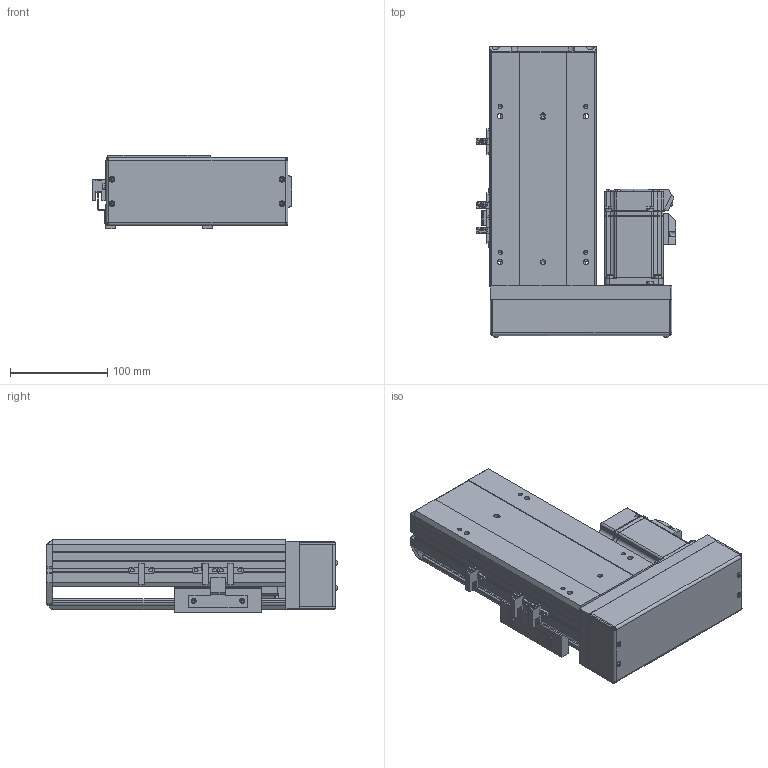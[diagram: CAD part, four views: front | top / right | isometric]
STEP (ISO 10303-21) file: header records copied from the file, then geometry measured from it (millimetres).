
FILE_DESCRIPTION (( 'STEP AP203' ), '1' );
FILE_NAME ('1.STEP', '2020-11-06T08:33:41', ( '' ), ( '' ), 'SwSTEP 2.0', 'SolidWorks 2016', '' );
FILE_SCHEMA (( 'CONFIG_CONTROL_DESIGN' ));
Length unit declared in the file: millimetre
Products named in the file (7): BTH11-BR-HZ; 1; BTH11-BR-02_100; BTH11-BR-04; BTH11-BR-01; BTH11-BL-BM-BR-菁釱; BTH11-BR-P20
Assembly tree (8 placements, depth 2):
  1
    BTH11-BL-BM-BR-菁釱
    BTH11-BR-01
    BTH11-BR-02_100
    BTH11-BR-04  x3
    BTH11-BR-HZ
    BTH11-BR-P20
Bounding box: 205.2 x 298.65 x 76 mm (x, y, z)
Volume: 1515518 mm3; surface area: 360592.2 mm2
Topology: 16 solids, 16 shells, 1501 faces, 3956 edges, 2554 vertices
Faces by surface type: plane 927, cylinder 463, cone 65, bspline 22, torus 16, sphere 8
Entity records: 40463 total; most frequent: CARTESIAN_POINT 7868, DIRECTION 6682, ORIENTED_EDGE 6572, EDGE_CURVE 3286, AXIS2_PLACEMENT_3D 2228, LINE 2226, VECTOR 2226, VERTEX_POINT 2130
